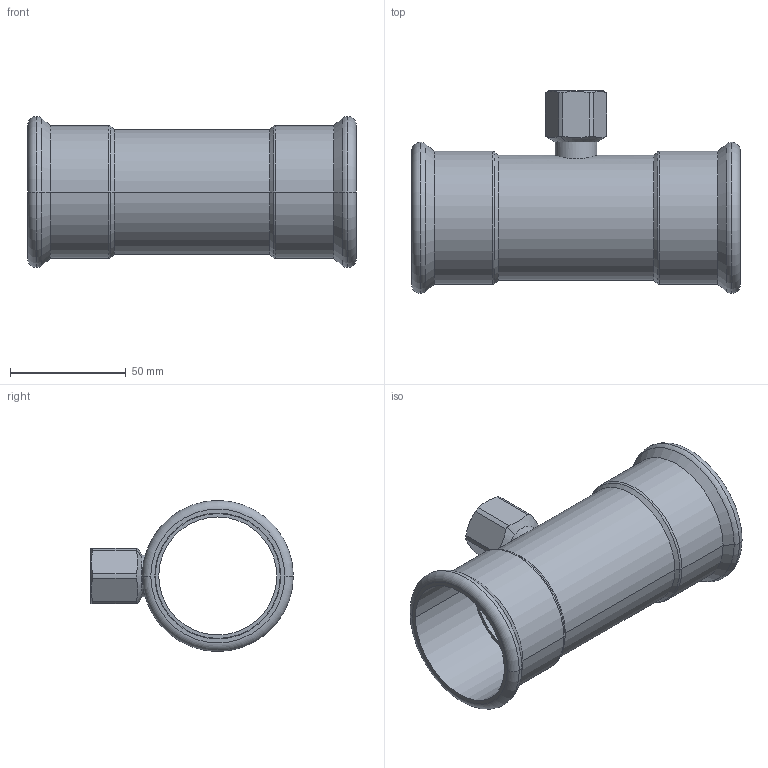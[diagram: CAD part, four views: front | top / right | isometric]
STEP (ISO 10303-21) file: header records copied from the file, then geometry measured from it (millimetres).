
FILE_DESCRIPTION(('CoCreate Modeling STEP Export'),'2;1');
FILE_NAME('C1418 54xRp1-2x54.stp','2014-11-12T15:06:15',(''),(''),'CoCreate Modeling STEP processor for AP214 (Solid Model)','CoCreate Modeling 17.00A 17-Jun-2010 (C) Parametric Technology GmbH','');
FILE_SCHEMA(('AUTOMOTIVE_DESIGN { 1 0 10303 214 1 1 1 1 }'));
Length unit declared in the file: millimetre
Products named in the file (2): C1418_54xRp1-2x54
Assembly tree (1 placements, depth 2):
  C1418_54xRp1-2x54
    C1418_54xRp1-2x54
Bounding box: 142 x 87.57 x 65.3 mm (x, y, z)
Volume: 51254.7 mm3; surface area: 55559.3 mm2
Topology: 1 solids, 1 shells, 66 faces, 156 edges, 96 vertices
Faces by surface type: cylinder 28, plane 14, cone 12, torus 12
Entity records: 3419 total; most frequent: CARTESIAN_POINT 2034, ORIENTED_EDGE 312, DIRECTION 240, EDGE_CURVE 156, AXIS2_PLACEMENT_3D 97, VERTEX_POINT 96, EDGE_LOOP 74, FACE_OUTER_BOUND 66
